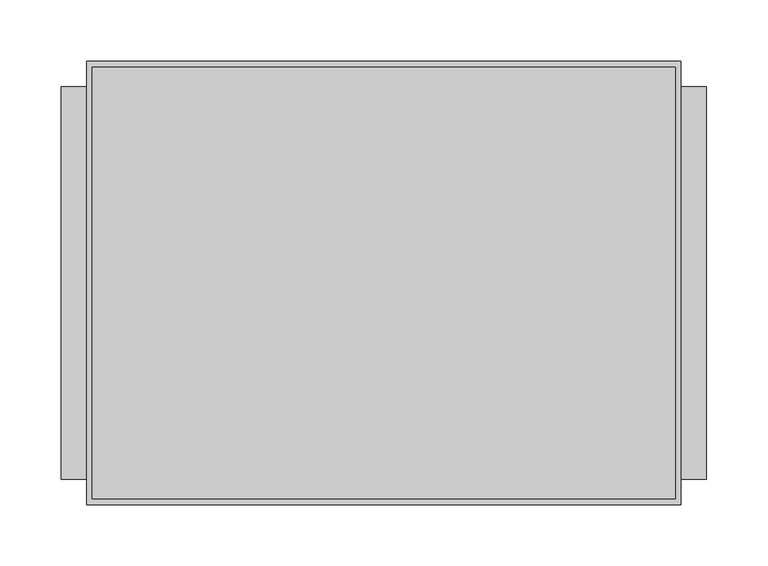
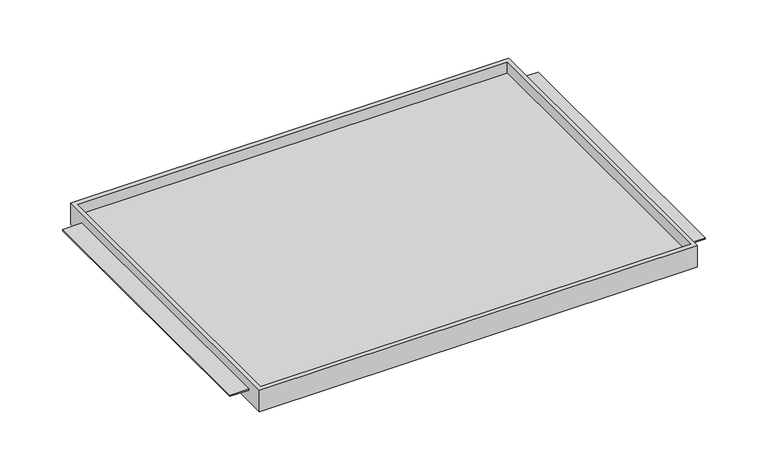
"""IFC4 building model written with IfcOpenShell, lengths in millimetres: furniture geometry."""

from ifc_helpers import new_model, si_unit, origin, place, context, project, spatial, faceted_brep, source, transform, mapped, element, save


def furniture_60ab3520(model_context):
    return source(origin(), model_context, "Body", "Brep", [
        faceted_brep([(-242.7689646, -180.975, 1587.5), (242.7689646, -180.975, 1587.5), (242.7689646, -180.975, 1612.9), (-242.7689646, -180.975, 1612.9), (-242.7689646, 180.975, 1587.5), (-242.7689646, 180.975, 1612.9), (242.7689646, 180.975, 1612.9), (242.7689646, 180.975, 1587.5), (242.7689646, -160.3374879, 1601.8002), (242.7689646, 160.3374879, 1601.8002), (242.7689646, 160.3374879, 1600.2), (242.7689646, -160.3374879, 1600.2), (238.125, -176.2125, 1612.9), (-238.125, -176.2125, 1612.9), (-238.125, 175.91278, 1612.9), (238.125, 175.91278, 1612.9), (-242.7689646, 160.3374879, 1601.8002), (-242.7689646, -160.3374879, 1601.8002), (-242.7689646, -160.3374879, 1600.2), (-242.7689646, 160.3374879, 1600.2), (-238.125, -176.2125, 1600.2), (238.125, -176.2125, 1600.2), (238.125, 175.91278, 1600.2), (-238.125, 175.91278, 1600.2), (-263.525, 160.3374879, 1601.8002), (-263.525, -160.3374879, 1601.8002), (263.525, -160.3374879, 1601.8002), (263.525, 160.3374879, 1601.8002), (-263.525, -160.3374879, 1600.2), (-263.525, 160.3374879, 1600.2), (263.525, -160.3374879, 1600.2), (263.525, 160.3374879, 1600.2)], [[[0, 1, 2, 3]], [[4, 5, 6, 7]], [[1, 0, 4, 7]], [[2, 1, 7, 6], [8, 9, 10, 11]], [[3, 2, 6, 5], [12, 13, 14, 15]], [[0, 3, 5, 4], [16, 17, 18, 19]], [[20, 21, 22, 23]], [[21, 20, 13, 12]], [[22, 21, 12, 15]], [[23, 22, 15, 14]], [[20, 23, 14, 13]], [[16, 24, 25, 17]], [[26, 27, 9, 8]], [[18, 28, 29, 19]], [[30, 11, 10, 31]], [[24, 16, 19, 29]], [[25, 24, 29, 28]], [[17, 25, 28, 18]], [[27, 26, 30, 31]], [[9, 27, 31, 10]], [[26, 8, 11, 30]]]),
    ])


if __name__ == "__main__":
    model = new_model("IFC4")
    model_context = context("Model", 3, world=origin())
    ifc_project = project(units=[si_unit("LENGTHUNIT", "METRE", prefix="MILLI")], contexts=[model_context])
    site = spatial("IfcSite", under=ifc_project)
    building = spatial("IfcBuilding", under=site)
    placement = place(None, origin())
    furniture_shape = furniture_60ab3520(model_context)
    element("IfcFurniture", 1, ObjectType="HermanMiller_CoStruc_CO203_CTrayShelf : 14\"D x 20\"W", at=placement, inside=building, context=model_context, shape_type="MappedRepresentation", body=[
        mapped(furniture_shape, transform((0.0, 0.0, 0.0), x_axis=(1.0, 0.0, 0.0), y_axis=(0.0, 1.0, 0.0), z_axis=(0.0, 0.0, 1.0))),
    ])
    save(model, "model.ifc")
